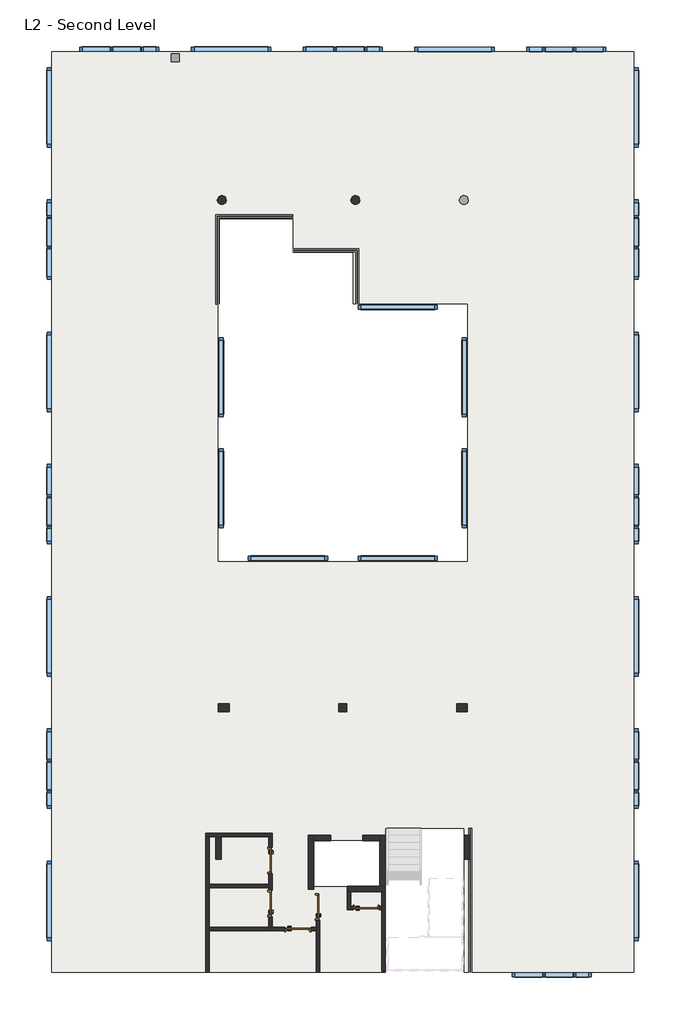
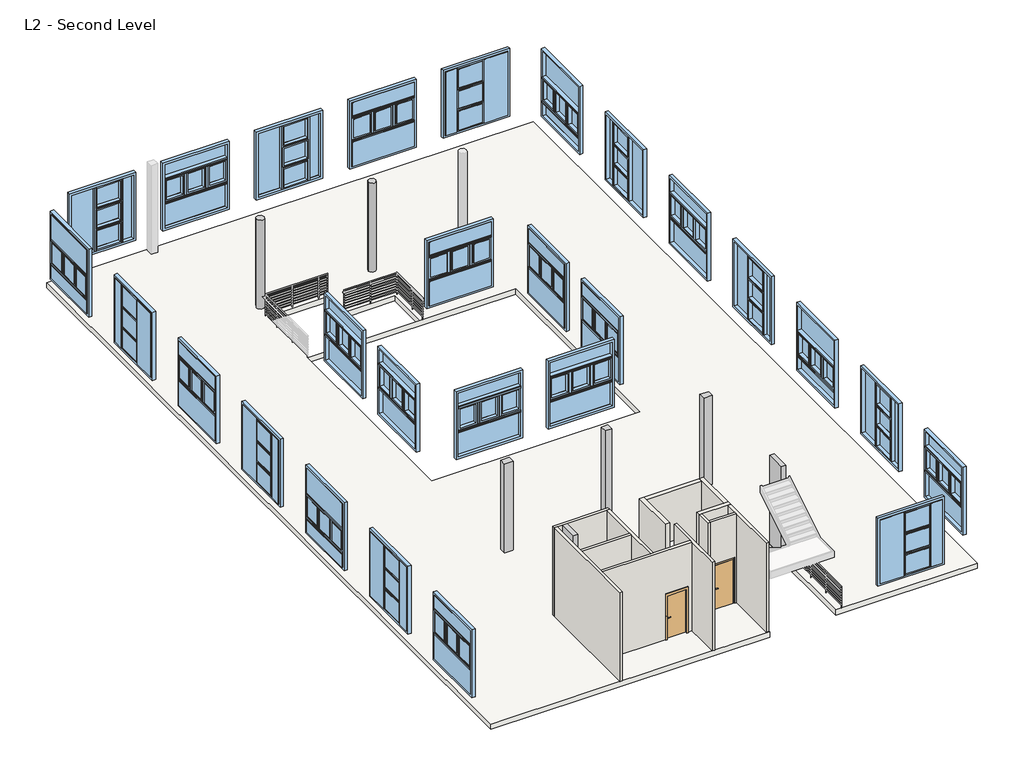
# One storey, part 1 of 3: 27 windows, 13 walls, 7 columns, 5 doors, 1 slab.
"""IFC4 building model written with IfcOpenShell, lengths in millimetres."""

from ifc_helpers import new_model, si_unit, point, frame, frame_2d, origin, place, context, project, spatial, polyline, circle_curve, trimmed, segment, composite_curve, outline, extrude, faceted_brep, transform, mapped, element, save
from components import door_4b82438d, door_733e7269, window_lateral_horizontal_lateral_windows_7aeb5992, window_lateral_horizontal_lateral_windows_836d6a86, window_lateral_horizontal_option2_lateral_windows_0b92641a, window_lateral_horizontal_option2_lateral_windows_3115a414, window_lateral_vertical_lateral_windows_fbe11301, window_lateral_vertical_lateral_windows_7704e6dc

model = new_model("IFC4")

# Units and contexts
model_context = context("Model", 3, world=origin())
ifc_project = project(units=[si_unit("LENGTHUNIT", "METRE", prefix="MILLI")], contexts=[model_context])

# Site, building, storey
site = spatial("IfcSite", under=ifc_project)
building = spatial("IfcBuilding", under=site)
storey = spatial("IfcBuildingStorey", under=building, Name="L2 - Second Level", Elevation=4470.4)

# Columns
placement = place(None, origin())
element("IfcColumn", 1, ObjectType="Concrete-Rectangular-Column : 12 x 12", at=placement, inside=storey, context=model_context, shape_type="SweptSolid", body=[
    extrude(outline(polyline([(14630.4, 10972.6001433), (14630.4, 10667.8001433), (14325.6, 10667.8001433), (14325.6, 10972.6001433), (14630.4, 10972.6001433)])), frame((0.0, 0.0, 4470.4), z_axis=(0.0, 0.0, 1.0), x_axis=(1.0, 0.0, 0.0)), (0.0, 0.0, 1.0), 4318.0),
])
element("IfcColumn", 2, ObjectType="Concrete-Rectangular-Column : 12 x 16", at=placement, inside=storey, context=model_context, shape_type="SweptSolid", body=[
    extrude(outline(polyline([(9702.5746315, 10972.8), (10108.9746315, 10972.8), (10108.9746315, 10668.0), (9702.5746315, 10668.0), (9702.5746315, 10972.8)])), frame((0.0, 0.0, 4470.4), z_axis=(0.0, 0.0, 1.0), x_axis=(1.0, 0.0, 0.0)), (0.0, 0.0, 1.0), 4318.0),
])
element("IfcColumn", 3, ObjectType="Concrete-Rectangular-Column : 12 x 16", at=placement, inside=storey, context=model_context, shape_type="SweptSolid", body=[
    extrude(outline(polyline([(18846.7999999, 10972.8), (19253.1999999, 10972.8), (19253.1999999, 10668.0), (18846.7999999, 10668.0), (18846.7999999, 10972.8)])), frame((0.0, 0.0, 4470.4), z_axis=(0.0, 0.0, 1.0), x_axis=(1.0, 0.0, 0.0)), (0.0, 0.0, 1.0), 4318.0),
])
element("IfcColumn", 4, ObjectType="Concrete-Rectangular-Column : 36 x 8", at=placement, inside=storey, context=model_context, shape_type="SweptSolid", body=[
    extrude(outline(polyline([(9601.1999999, 5919.4792863), (9804.3999999, 5919.4792863), (9804.3999999, 5005.0792863), (9601.1999999, 5005.0792863), (9601.1999999, 5919.4792863)])), frame((0.0, 0.0, 4470.4), z_axis=(0.0, 0.0, 1.0), x_axis=(1.0, 0.0, 0.0)), (0.0, 0.0, 1.0), 4318.0),
])
element("IfcColumn", 5, ObjectType="Concrete-Rectangular-Column : 36 x 8", at=placement, inside=storey, context=model_context, shape_type="SweptSolid", body=[
    extrude(outline(polyline([(19151.6060672, 5919.4792863), (19354.8060672, 5919.4792863), (19354.8060672, 5005.0792863), (19151.6060672, 5005.0792863), (19151.6060672, 5919.4792863)])), frame((0.0, 0.0, 4470.4), z_axis=(0.0, 0.0, 1.0), x_axis=(1.0, 0.0, 0.0)), (0.0, 0.0, 1.0), 4318.0),
])
element("IfcColumn", 6, ObjectType="Concrete-Round-Column : 14\"", at=placement, inside=storey, context=model_context, shape_type="SweptSolid", body=[
    extrude(outline(composite_curve([segment(trimmed(circle_curve(frame_2d((9829.8000173, 30324.5922166)), 177.8), [point((9652.0000173, 30324.5922166))], [point((10007.6000173, 30324.5922166))], False, "CARTESIAN"), True, "CONTINUOUS"), segment(trimmed(circle_curve(frame_2d((9829.8000173, 30324.5922166)), 177.8), [point((10007.6000173, 30324.5922166))], [point((9652.0000173, 30324.5922166))], False, "CARTESIAN"), True, "CONTINUOUS")], self_intersect=False)), frame((0.0, 0.0, 4470.4), z_axis=(0.0, 0.0, 1.0), x_axis=(1.0, 0.0, 0.0)), (0.0, 0.0, 1.0), 4318.0),
])
element("IfcColumn", 7, ObjectType="Concrete-Round-Column : 14\"", at=placement, inside=storey, context=model_context, shape_type="SweptSolid", body=[
    extrude(outline(composite_curve([segment(trimmed(circle_curve(frame_2d((14960.6000173, 30324.5922166)), 177.8), [point((14782.8000173, 30324.5922166))], [point((15138.4000173, 30324.5922166))], False, "CARTESIAN"), True, "CONTINUOUS"), segment(trimmed(circle_curve(frame_2d((14960.6000173, 30324.5922166)), 177.8), [point((15138.4000173, 30324.5922166))], [point((14782.8000173, 30324.5922166))], False, "CARTESIAN"), True, "CONTINUOUS")], self_intersect=False)), frame((0.0, 0.0, 4470.4), z_axis=(0.0, 0.0, 1.0), x_axis=(1.0, 0.0, 0.0)), (0.0, 0.0, 1.0), 4318.0),
])

# Doors
door_shape = door_4b82438d(model_context)
element("IfcDoor", 8, ObjectType="Door-Passage-Single-Flush : 36\" x 84\"", at=placement, inside=storey, context=model_context, shape_type="MappedRepresentation", body=[
    mapped(door_shape, transform((11690.3560672, 4953.0, 4470.4), x_axis=(0.0, -1.0, 0.0), y_axis=(1.0, 0.0, 0.0), z_axis=(0.0, 0.0, 1.0))),
])
element("IfcDoor", 9, ObjectType="Door-Passage-Single-Flush : 36\" x 84\"", at=placement, inside=storey, context=model_context, shape_type="MappedRepresentation", body=[
    mapped(door_shape, transform((12750.8060672, 2317.75, 4470.4), x_axis=(1.0, 0.0, 0.0), y_axis=(0.0, 1.0, 0.0), z_axis=(0.0, 0.0, 1.0))),
])
door_2_shape = door_733e7269(model_context)
element("IfcDoor", 10, ObjectType="Door-Passage-Single-Flush : 36\" x 84\"", at=placement, inside=storey, context=model_context, shape_type="MappedRepresentation", body=[
    mapped(door_2_shape, transform((11690.3560672, 3302.0, 4470.4), x_axis=(0.0, 1.0, 0.0), y_axis=(-1.0, 0.0, 0.0), z_axis=(0.0, 0.0, 1.0))),
])
element("IfcDoor", 11, ObjectType="Door-Passage-Single-Flush : 36\" x 84\"", at=placement, inside=storey, context=model_context, shape_type="MappedRepresentation", body=[
    mapped(door_2_shape, transform((13519.1560672, 3175.0, 4470.4), x_axis=(0.0, 1.0, 0.0), y_axis=(-1.0, 0.0, 0.0), z_axis=(0.0, 0.0, 1.0))),
])
element("IfcDoor", 12, ObjectType="Door-Passage-Single-Flush : 36\" x 84\"", at=placement, inside=storey, context=model_context, shape_type="MappedRepresentation", body=[
    mapped(door_2_shape, transform((15379.7060672, 3143.25, 4470.4), x_axis=(1.0, 0.0, 0.0), y_axis=(0.0, 1.0, 0.0), z_axis=(0.0, 0.0, 1.0))),
])

# Slab
element("IfcSlab", 13, ObjectType="Concrete 10\"", at=placement, inside=storey, context=model_context, shape_type="Brep", body=[
    faceted_brep([(3302.0, 36017.1999999, 4216.4), (25654.0, 36017.1999999, 4216.4), (25654.0, 660.4, 4216.4), (19151.6060672, 660.4, 4216.4), (19151.6060672, 6197.6, 4216.4), (16103.6060672, 6197.6, 4216.4), (16103.6060672, 660.4, 4216.4), (3302.0, 660.4, 4216.4), (19253.2, 26314.3998757, 4216.4), (9702.8000088, 26314.3998757, 4216.4), (9702.8000088, 16459.1998844, 4216.4), (19253.2, 16459.1998844, 4216.4), (15900.4060672, 5715.0, 4216.4), (13258.8060672, 5715.0, 4216.4), (13258.8060672, 3962.4, 4216.4), (15900.4060672, 3962.4, 4216.4), (12547.6000088, 29578.2998803, 4216.4), (9753.6000088, 29578.2998803, 4216.4), (9753.6000088, 26314.3998815, 4216.4), (14852.6500296, 26314.3998815, 4216.4), (14852.6500296, 28308.2998803, 4216.4), (12547.6000088, 28308.2998803, 4216.4), (3302.0, 36017.1999999, 4470.4), (3302.0, 660.4, 4470.4), (16103.6060672, 660.4, 4470.4), (16103.6060672, 6197.6, 4470.4), (19151.6060672, 6197.6, 4470.4), (19151.6060672, 5919.4792863, 4470.4), (19151.6060672, 5005.0792863, 4470.4), (19151.6060672, 660.4, 4470.4), (25654.0, 660.4, 4470.4), (25654.0, 36017.1999999, 4470.4), (19253.2, 26314.3998757, 4470.4), (19253.2, 16459.1998844, 4470.4), (9702.8000088, 16459.1998844, 4470.4), (9702.8000088, 26314.3998757, 4470.4), (15900.4060672, 5715.0, 4470.4), (15900.4060672, 3962.4, 4470.4), (13258.8060672, 3962.4, 4470.4), (13258.8060672, 5715.0, 4470.4), (12547.6000088, 29578.2998803, 4470.4), (12547.6000088, 28308.2998803, 4470.4), (14852.6500296, 28308.2998803, 4470.4), (14852.6500296, 26314.3998815, 4470.4), (9753.6000088, 26314.3998815, 4470.4), (9753.6000088, 29578.2998803, 4470.4)], [[[0, 1, 2, 3, 4, 5, 6, 7], [8, 9, 10, 11], [12, 13, 14, 15], [16, 17, 18, 19, 20, 21]], [[22, 23, 24, 25, 26, 27, 28, 29, 30, 31], [32, 33, 34, 35], [36, 37, 38, 39], [40, 41, 42, 43, 44, 45]], [[1, 0, 22, 31]], [[2, 1, 31, 30]], [[7, 6, 24, 23]], [[0, 7, 23, 22]], [[3, 2, 30, 29]], [[4, 3, 29, 28, 27, 26]], [[5, 4, 26, 25]], [[6, 5, 25, 24]], [[9, 8, 32, 35]], [[10, 9, 35, 34]], [[11, 10, 34, 33]], [[8, 11, 33, 32]], [[13, 12, 36, 39]], [[14, 13, 39, 38]], [[15, 14, 38, 37]], [[12, 15, 37, 36]], [[17, 16, 40, 45]], [[18, 17, 45, 44]], [[19, 18, 44, 43]], [[20, 19, 43, 42]], [[21, 20, 42, 41]], [[16, 21, 41, 40]]]),
])

# Walls
element("IfcWall", 14, ObjectType="Project Wall", at=placement, inside=storey, context=model_context, shape_type="Brep", body=[
    faceted_brep([(13157.2060672, 5918.2, 4470.4), (13157.2060672, 3860.8, 4470.4), (13157.2060672, 3860.8, 8788.4), (13157.2060672, 5918.2, 8788.4), (13360.4060672, 5918.2, 4470.4), (13360.4060672, 5918.2, 8788.4), (13360.4060672, 5715.0, 8788.4), (13360.4060672, 3860.8, 8788.4), (13360.4060672, 3860.8, 4470.4), (13360.4060672, 5715.0, 4470.4)], [[[0, 1, 2, 3]], [[4, 5, 6, 7, 8, 9]], [[1, 0, 4, 9, 8]], [[2, 1, 8, 7]], [[3, 2, 7, 6, 5]], [[0, 3, 5, 4]]]),
])
element("IfcWall", 15, ObjectType="Project Wall", at=placement, inside=storey, context=model_context, shape_type="Brep", body=[
    faceted_brep([(14655.8060672, 3759.2, 4470.4), (14782.8060672, 3759.2, 4470.4), (15976.6060672, 3759.2, 4470.4), (16103.6060672, 3759.2, 4470.4), (16103.6060672, 3759.2, 8788.4), (15976.6060672, 3759.2, 8788.4), (14782.8060672, 3759.2, 8788.4), (14655.8060672, 3759.2, 8788.4), (14655.8060672, 3962.4, 4470.4), (14655.8060672, 3962.4, 8788.4), (15900.4060672, 3962.4, 8788.4), (16103.6060672, 3962.4, 8788.4), (16103.6060672, 3962.4, 4470.4), (15900.4060672, 3962.4, 4470.4)], [[[0, 1, 2, 3, 4, 5, 6, 7]], [[8, 9, 10, 11, 12, 13]], [[3, 2, 1, 0, 8, 13, 12]], [[7, 6, 5, 4, 11, 10, 9]], [[4, 3, 12, 11]], [[0, 7, 9, 8]]]),
])
element("IfcWall", 16, ObjectType="Project Wall", at=placement, inside=storey, context=model_context, shape_type="Brep", body=[
    faceted_brep([(16103.6060672, 3962.4, 4470.4), (16103.6060672, 5918.2, 4470.4), (16103.6060672, 5918.2, 8788.4), (16103.6060672, 3962.4, 8788.4), (15900.4060672, 3962.4, 4470.4), (15900.4060672, 3962.4, 8788.4), (15900.4060672, 5715.0, 8788.4), (15900.4060672, 5918.2, 8788.4), (15900.4060672, 5918.2, 4470.4), (15900.4060672, 5715.0, 4470.4)], [[[0, 1, 2, 3]], [[4, 5, 6, 7, 8, 9]], [[1, 0, 4, 9, 8]], [[3, 2, 7, 6, 5]], [[0, 3, 5, 4]], [[2, 1, 8, 7]]]),
])
element("IfcWall", 17, ObjectType="Project Wall", at=placement, inside=storey, context=model_context, shape_type="SweptSolid", body=[
    extrude(outline(polyline([(8788.4, 15900.4060672), (8788.4, 13360.4060672), (4470.4, 13360.4060672), (4470.4, 14014.4560672), (6375.4, 14014.4560672), (6375.4, 15246.3560672), (4470.4, 15246.3560672), (4470.4, 15900.4060672), (8788.4, 15900.4060672)])), frame((0.0, 5715.0, 0.0), z_axis=(0.0, 1.0, 0.0), x_axis=(0.0, 0.0, 1.0)), (0.0, 0.0, 1.0), 203.2),
])
element("IfcWall", 18, ObjectType="Project Wall 5\"", at=placement, inside=storey, context=model_context, shape_type="Brep", body=[
    faceted_brep([(11760.2060672, 5994.4, 4470.4), (9220.2060672, 5994.4, 4470.4), (9220.2060672, 5994.4, 8788.4), (11760.2060672, 5994.4, 8788.4), (11760.2060672, 5867.4, 4470.4), (11760.2060672, 5867.4, 8788.4), (11633.2060672, 5867.4, 8788.4), (9347.2060672, 5867.4, 8788.4), (9220.2060672, 5867.4, 8788.4), (9220.2060672, 5867.4, 4470.4), (9347.2060672, 5867.4, 4470.4), (11633.2060672, 5867.4, 4470.4)], [[[0, 1, 2, 3]], [[4, 5, 6, 7, 8, 9, 10, 11]], [[1, 0, 4, 11, 10, 9]], [[3, 2, 8, 7, 6, 5]], [[2, 1, 9, 8]], [[0, 3, 5, 4]]]),
])
element("IfcWall", 19, ObjectType="Project Wall 5\"", at=placement, inside=storey, context=model_context, shape_type="Brep", body=[
    faceted_brep([(9220.2060672, 5867.4, 4470.4), (9220.2060672, 660.4, 4470.4), (9220.2060672, 660.4, 8788.4), (9220.2060672, 5867.4, 8788.4), (9347.2060672, 5867.4, 4470.4), (9347.2060672, 5867.4, 8788.4), (9347.2060672, 4038.6, 8788.4), (9347.2060672, 3911.6, 8788.4), (9347.2060672, 2387.6, 8788.4), (9347.2060672, 2260.6, 8788.4), (9347.2060672, 660.4, 8788.4), (9347.2060672, 660.4, 4470.4), (9347.2060672, 2260.6, 4470.4), (9347.2060672, 2387.6, 4470.4), (9347.2060672, 3911.6, 4470.4), (9347.2060672, 4038.6, 4470.4)], [[[0, 1, 2, 3]], [[4, 5, 6, 7, 8, 9, 10, 11, 12, 13, 14, 15]], [[1, 0, 4, 15, 14, 13, 12, 11]], [[3, 2, 10, 9, 8, 7, 6, 5]], [[0, 3, 5, 4]], [[2, 1, 11, 10]]]),
])
element("IfcWall", 20, ObjectType="Project Wall 5\"", at=placement, inside=storey, context=model_context, shape_type="Brep", body=[
    faceted_brep([(11633.2060672, 2387.6, 8788.4), (11633.2060672, 3911.6, 8788.4), (11633.2060672, 4038.6, 8788.4), (11633.2060672, 5867.4, 8788.4), (11633.2060672, 5867.4, 4470.4), (11633.2060672, 5461.0, 4470.4), (11633.2060672, 5461.0, 6705.6), (11633.2060672, 4445.0, 6705.6), (11633.2060672, 4445.0, 4470.4), (11633.2060672, 4038.6, 4470.4), (11633.2060672, 3911.6, 4470.4), (11633.2060672, 3810.0, 4470.4), (11633.2060672, 3810.0, 6705.6), (11633.2060672, 2794.0, 6705.6), (11633.2060672, 2794.0, 4470.4), (11633.2060672, 2387.6, 4470.4), (11760.2060672, 5867.4, 8788.4), (11760.2060672, 2387.6, 8788.4), (11760.2060672, 2387.6, 4470.4), (11760.2060672, 2794.0, 4470.4), (11760.2060672, 2794.0, 6705.6), (11760.2060672, 3810.0, 6705.6), (11760.2060672, 3810.0, 4470.4), (11760.2060672, 4445.0, 4470.4), (11760.2060672, 4445.0, 6705.6), (11760.2060672, 5461.0, 6705.6), (11760.2060672, 5461.0, 4470.4), (11760.2060672, 5867.4, 4470.4)], [[[0, 1, 2, 3, 4, 5, 6, 7, 8, 9, 10, 11, 12, 13, 14, 15]], [[16, 17, 18, 19, 20, 21, 22, 23, 24, 25, 26, 27]], [[4, 27, 26, 5]], [[18, 15, 14, 19]], [[8, 23, 22, 11, 10, 9]], [[3, 2, 1, 0, 17, 16]], [[4, 3, 16, 27]], [[0, 15, 18, 17]], [[7, 24, 23, 8]], [[24, 7, 6, 25]], [[25, 6, 5, 26]], [[21, 12, 11, 22]], [[12, 21, 20, 13]], [[13, 20, 19, 14]]]),
])
element("IfcWall", 21, ObjectType="Project Wall 5\"", at=placement, inside=storey, context=model_context, shape_type="Brep", body=[
    faceted_brep([(13462.0060672, 660.4, 8788.4), (13462.0060672, 2260.6, 8788.4), (13462.0060672, 2387.6, 8788.4), (13462.0060672, 3683.0, 8788.4), (13462.0060672, 3683.0, 6705.6), (13462.0060672, 2667.0, 6705.6), (13462.0060672, 2667.0, 4470.4), (13462.0060672, 2387.6, 4470.4), (13462.0060672, 2260.6, 4470.4), (13462.0060672, 660.4, 4470.4), (13589.0060672, 3683.0, 8788.4), (13589.0060672, 660.4, 8788.4), (13589.0060672, 660.4, 4470.4), (13589.0060672, 2667.0, 4470.4), (13589.0060672, 2667.0, 6705.6), (13589.0060672, 3683.0, 6705.6)], [[[0, 1, 2, 3, 4, 5, 6, 7, 8, 9]], [[10, 11, 12, 13, 14, 15]], [[12, 9, 8, 7, 6, 13]], [[3, 2, 1, 0, 11, 10]], [[3, 10, 15, 4]], [[14, 5, 4, 15]], [[5, 14, 13, 6]], [[0, 9, 12, 11]]]),
])
element("IfcWall", 22, ObjectType="Project Wall 5\"", at=placement, inside=storey, context=model_context, shape_type="Brep", body=[
    faceted_brep([(9347.2060672, 2387.6, 8788.4), (11633.2060672, 2387.6, 8788.4), (11760.2060672, 2387.6, 8788.4), (13462.0060672, 2387.6, 8788.4), (13462.0060672, 2387.6, 4470.4), (13258.8060672, 2387.6, 4470.4), (13258.8060672, 2387.6, 6705.6), (12242.8060672, 2387.6, 6705.6), (12242.8060672, 2387.6, 4470.4), (11760.2060672, 2387.6, 4470.4), (11633.2060672, 2387.6, 4470.4), (9347.2060672, 2387.6, 4470.4), (13462.0060672, 2260.6, 8788.4), (9347.2060672, 2260.6, 8788.4), (9347.2060672, 2260.6, 4470.4), (12242.8060672, 2260.6, 4470.4), (12242.8060672, 2260.6, 6705.6), (13258.8060672, 2260.6, 6705.6), (13258.8060672, 2260.6, 4470.4), (13462.0060672, 2260.6, 4470.4)], [[[0, 1, 2, 3, 4, 5, 6, 7, 8, 9, 10, 11]], [[12, 13, 14, 15, 16, 17, 18, 19]], [[4, 19, 18, 5]], [[14, 11, 10, 9, 8, 15]], [[3, 2, 1, 0, 13, 12]], [[0, 11, 14, 13]], [[4, 3, 12, 19]], [[17, 6, 5, 18]], [[6, 17, 16, 7]], [[7, 16, 15, 8]]]),
])
element("IfcWall", 23, ObjectType="Project Wall 5\"", at=placement, inside=storey, context=model_context, shape_type="SweptSolid", body=[
    extrude(outline(polyline([(9347.2060672, 4038.6), (11633.2060672, 4038.6), (11633.2060672, 3911.6), (9347.2060672, 3911.6), (9347.2060672, 4038.6)])), frame((0.0, 0.0, 4470.4), z_axis=(0.0, 0.0, 1.0), x_axis=(1.0, 0.0, 0.0)), (0.0, 0.0, 1.0), 4318.0),
])
element("IfcWall", 24, ObjectType="Project Wall 5\"", at=placement, inside=storey, context=model_context, shape_type="Brep", body=[
    faceted_brep([(14655.8060672, 3759.2, 4470.4), (14655.8060672, 3073.4, 4470.4), (14655.8060672, 3073.4, 8788.4), (14655.8060672, 3759.2, 8788.4), (14782.8060672, 3759.2, 4470.4), (14782.8060672, 3759.2, 8788.4), (14782.8060672, 3200.4, 8788.4), (14782.8060672, 3073.4, 8788.4), (14782.8060672, 3073.4, 4470.4), (14782.8060672, 3200.4, 4470.4)], [[[0, 1, 2, 3]], [[4, 5, 6, 7, 8, 9]], [[1, 0, 4, 9, 8]], [[3, 2, 7, 6, 5]], [[0, 3, 5, 4]], [[2, 1, 8, 7]]]),
])
element("IfcWall", 25, ObjectType="Project Wall 5\"", at=placement, inside=storey, context=model_context, shape_type="Brep", body=[
    faceted_brep([(15976.6060672, 3759.2, 4470.4), (15976.6060672, 3200.4, 4470.4), (15976.6060672, 3073.4, 4470.4), (15976.6060672, 711.2, 4470.4), (15976.6060672, 711.2, 8788.4), (15976.6060672, 3073.4, 8788.4), (15976.6060672, 3200.4, 8788.4), (15976.6060672, 3759.2, 8788.4), (16103.6060672, 3759.2, 4470.4), (16103.6060672, 3759.2, 8788.4), (16103.6060672, 711.2, 8788.4), (16103.6060672, 711.2, 4470.4)], [[[0, 1, 2, 3, 4, 5, 6, 7]], [[8, 9, 10, 11]], [[3, 2, 1, 0, 8, 11]], [[4, 3, 11, 10]], [[7, 6, 5, 4, 10, 9]], [[0, 7, 9, 8]]]),
])
element("IfcWall", 26, ObjectType="Project Wall 5\"", at=placement, inside=storey, context=model_context, shape_type="SweptSolid", body=[
    extrude(outline(polyline([(8788.4, 15976.6060672), (8788.4, 14782.8060672), (4470.4, 14782.8060672), (4470.4, 14871.7060672), (6705.6, 14871.7060672), (6705.6, 15887.7060672), (4470.4, 15887.7060672), (4470.4, 15976.6060672), (8788.4, 15976.6060672)])), frame((0.0, 3073.4, 0.0), z_axis=(0.0, 1.0, 0.0), x_axis=(0.0, 0.0, 1.0)), (0.0, 0.0, 1.0), 127.0),
])

# Windows
window_lateral_horizontal_lateral_windows_shape = window_lateral_horizontal_lateral_windows_7aeb5992(model_context)
element("IfcWindow", 27, ObjectType="Window_Lateral_Horizontal : Lateral Windows", at=placement, inside=storey, context=model_context, shape_type="MappedRepresentation", body=[
    mapped(window_lateral_horizontal_lateral_windows_shape, transform((3200.4, 23723.6, 4165.6), x_axis=(0.0, -1.0, 0.0), y_axis=(1.0, 0.0, 0.0), z_axis=(0.0, 0.0, 1.0))),
])
element("IfcWindow", 28, ObjectType="Window_Lateral_Horizontal : Lateral Windows", at=placement, inside=storey, context=model_context, shape_type="MappedRepresentation", body=[
    mapped(window_lateral_horizontal_lateral_windows_shape, transform((3200.4, 3403.6, 4165.6), x_axis=(0.0, -1.0, 0.0), y_axis=(1.0, 0.0, 0.0), z_axis=(0.0, 0.0, 1.0))),
])
window_lateral_horizontal_lateral_windows_2_shape = window_lateral_horizontal_lateral_windows_836d6a86(model_context)
element("IfcWindow", 29, ObjectType="Window_Lateral_Horizontal : Lateral Windows", at=placement, inside=storey, context=model_context, shape_type="MappedRepresentation", body=[
    mapped(window_lateral_horizontal_lateral_windows_2_shape, transform((18770.6, 36118.7999999, 4165.6), x_axis=(-1.0, 0.0, 0.0), y_axis=(0.0, -1.0, 0.0), z_axis=(0.0, 0.0, 1.0))),
])
element("IfcWindow", 30, ObjectType="Window_Lateral_Horizontal : Lateral Windows", at=placement, inside=storey, context=model_context, shape_type="MappedRepresentation", body=[
    mapped(window_lateral_horizontal_lateral_windows_2_shape, transform((10185.4, 36118.8, 4165.6), x_axis=(1.0, 0.0, 0.0), y_axis=(0.0, 1.0, 0.0), z_axis=(0.0, 0.0, 1.0))),
])
element("IfcWindow", 31, ObjectType="Window_Lateral_Horizontal : Lateral Windows", at=placement, inside=storey, context=model_context, shape_type="MappedRepresentation", body=[
    mapped(window_lateral_horizontal_lateral_windows_2_shape, transform((25755.6, 3403.6, 4165.6), x_axis=(0.0, -1.0, 0.0), y_axis=(1.0, 0.0, 0.0), z_axis=(0.0, 0.0, 1.0))),
])
element("IfcWindow", 32, ObjectType="Window_Lateral_Horizontal : Lateral Windows", at=placement, inside=storey, context=model_context, shape_type="MappedRepresentation", body=[
    mapped(window_lateral_horizontal_lateral_windows_2_shape, transform((25755.6, 23723.6, 4165.6), x_axis=(0.0, -1.0, 0.0), y_axis=(1.0, 0.0, 0.0), z_axis=(0.0, 0.0, 1.0))),
])
element("IfcWindow", 33, ObjectType="Window_Lateral_Horizontal : Lateral Windows", at=placement, inside=storey, context=model_context, shape_type="MappedRepresentation", body=[
    mapped(window_lateral_horizontal_lateral_windows_2_shape, transform((16586.2, 26212.7998757, 4165.6), x_axis=(-1.0, 0.0, 0.0), y_axis=(0.0, -1.0, 0.0), z_axis=(0.0, 0.0, 1.0))),
])
element("IfcWindow", 34, ObjectType="Window_Lateral_Horizontal : Lateral Windows", at=placement, inside=storey, context=model_context, shape_type="MappedRepresentation", body=[
    mapped(window_lateral_horizontal_lateral_windows_2_shape, transform((19151.6, 23520.3998757, 4165.6), x_axis=(0.0, 1.0, 0.0), y_axis=(-1.0, 0.0, 0.0), z_axis=(0.0, 0.0, 1.0))),
])
element("IfcWindow", 35, ObjectType="Window_Lateral_Horizontal : Lateral Windows", at=placement, inside=storey, context=model_context, shape_type="MappedRepresentation", body=[
    mapped(window_lateral_horizontal_lateral_windows_2_shape, transform((19151.6, 19253.1998844, 4165.6), x_axis=(0.0, 1.0, 0.0), y_axis=(-1.0, 0.0, 0.0), z_axis=(0.0, 0.0, 1.0))),
])
element("IfcWindow", 36, ObjectType="Window_Lateral_Horizontal : Lateral Windows", at=placement, inside=storey, context=model_context, shape_type="MappedRepresentation", body=[
    mapped(window_lateral_horizontal_lateral_windows_2_shape, transform((16586.2, 16560.7998844, 4165.6), x_axis=(1.0, 0.0, 0.0), y_axis=(0.0, 1.0, 0.0), z_axis=(0.0, 0.0, 1.0))),
])
element("IfcWindow", 37, ObjectType="Window_Lateral_Horizontal : Lateral Windows", at=placement, inside=storey, context=model_context, shape_type="MappedRepresentation", body=[
    mapped(window_lateral_horizontal_lateral_windows_2_shape, transform((12369.8000088, 16560.7998844, 4165.6), x_axis=(1.0, 0.0, 0.0), y_axis=(0.0, 1.0, 0.0), z_axis=(0.0, 0.0, 1.0))),
])
element("IfcWindow", 38, ObjectType="Window_Lateral_Horizontal : Lateral Windows", at=placement, inside=storey, context=model_context, shape_type="MappedRepresentation", body=[
    mapped(window_lateral_horizontal_lateral_windows_2_shape, transform((9804.4000088, 19253.1998844, 4165.6), x_axis=(0.0, -1.0, 0.0), y_axis=(1.0, 0.0, 0.0), z_axis=(0.0, 0.0, 1.0))),
])
element("IfcWindow", 39, ObjectType="Window_Lateral_Horizontal : Lateral Windows", at=placement, inside=storey, context=model_context, shape_type="MappedRepresentation", body=[
    mapped(window_lateral_horizontal_lateral_windows_2_shape, transform((9804.4000088, 23520.3998757, 4165.6), x_axis=(0.0, -1.0, 0.0), y_axis=(1.0, 0.0, 0.0), z_axis=(0.0, 0.0, 1.0))),
])
window_lateral_horizontal_option2_lateral_windows_shape = window_lateral_horizontal_option2_lateral_windows_0b92641a(model_context)
element("IfcWindow", 40, ObjectType="Window_Lateral_Horizontal_Option2 : Lateral Windows", at=placement, inside=storey, context=model_context, shape_type="MappedRepresentation", body=[
    mapped(window_lateral_horizontal_option2_lateral_windows_shape, transform((25755.6, 13563.6, 4165.6), x_axis=(0.0, -1.0, 0.0), y_axis=(1.0, 0.0, 0.0), z_axis=(0.0, 0.0, 1.0))),
])
element("IfcWindow", 41, ObjectType="Window_Lateral_Horizontal_Option2 : Lateral Windows", at=placement, inside=storey, context=model_context, shape_type="MappedRepresentation", body=[
    mapped(window_lateral_horizontal_option2_lateral_windows_shape, transform((25755.6, 33883.5999999, 4165.6), x_axis=(0.0, -1.0, 0.0), y_axis=(1.0, 0.0, 0.0), z_axis=(0.0, 0.0, 1.0))),
])
window_lateral_horizontal_option2_lateral_windows_2_shape = window_lateral_horizontal_option2_lateral_windows_3115a414(model_context)
element("IfcWindow", 42, ObjectType="Window_Lateral_Horizontal_Option2 : Lateral Windows", at=placement, inside=storey, context=model_context, shape_type="MappedRepresentation", body=[
    mapped(window_lateral_horizontal_option2_lateral_windows_2_shape, transform((3200.4, 33883.6, 4165.6), x_axis=(0.0, -1.0, 0.0), y_axis=(1.0, 0.0, 0.0), z_axis=(0.0, 0.0, 1.0))),
])
element("IfcWindow", 43, ObjectType="Window_Lateral_Horizontal_Option2 : Lateral Windows", at=placement, inside=storey, context=model_context, shape_type="MappedRepresentation", body=[
    mapped(window_lateral_horizontal_option2_lateral_windows_2_shape, transform((3200.4, 13563.6, 4165.6), x_axis=(0.0, -1.0, 0.0), y_axis=(1.0, 0.0, 0.0), z_axis=(0.0, 0.0, 1.0))),
])
window_lateral_vertical_lateral_windows_shape = window_lateral_vertical_lateral_windows_fbe11301(model_context)
element("IfcWindow", 44, ObjectType="Window_Lateral_Vertical : Lateral Windows", at=placement, inside=storey, context=model_context, shape_type="MappedRepresentation", body=[
    mapped(window_lateral_vertical_lateral_windows_shape, transform((3200.4, 18643.6, 4165.6), x_axis=(0.0, -1.0, 0.0), y_axis=(1.0, 0.0, 0.0), z_axis=(0.0, 0.0, 1.0))),
])
element("IfcWindow", 45, ObjectType="Window_Lateral_Vertical : Lateral Windows", at=placement, inside=storey, context=model_context, shape_type="MappedRepresentation", body=[
    mapped(window_lateral_vertical_lateral_windows_shape, transform((3200.4, 8483.6, 4165.6), x_axis=(0.0, -1.0, 0.0), y_axis=(1.0, 0.0, 0.0), z_axis=(0.0, 0.0, 1.0))),
])
element("IfcWindow", 46, ObjectType="Window_Lateral_Vertical : Lateral Windows", at=placement, inside=storey, context=model_context, shape_type="MappedRepresentation", body=[
    mapped(window_lateral_vertical_lateral_windows_shape, transform((25755.6, 28803.6, 4165.6), x_axis=(0.0, 1.0, 0.0), y_axis=(-1.0, 0.0, 0.0), z_axis=(0.0, 0.0, 1.0))),
])
element("IfcWindow", 47, ObjectType="Window_Lateral_Vertical : Lateral Windows", at=placement, inside=storey, context=model_context, shape_type="MappedRepresentation", body=[
    mapped(window_lateral_vertical_lateral_windows_shape, transform((22504.4, 558.8, 4165.6), x_axis=(1.0, 0.0, 0.0), y_axis=(0.0, 1.0, 0.0), z_axis=(0.0, 0.0, 1.0))),
])
window_lateral_vertical_lateral_windows_2_shape = window_lateral_vertical_lateral_windows_7704e6dc(model_context)
element("IfcWindow", 48, ObjectType="Window_Lateral_Vertical : Lateral Windows", at=placement, inside=storey, context=model_context, shape_type="MappedRepresentation", body=[
    mapped(window_lateral_vertical_lateral_windows_2_shape, transform((23063.2, 36118.7999999, 4165.6), x_axis=(-1.0, 0.0, 0.0), y_axis=(0.0, -1.0, 0.0), z_axis=(0.0, 0.0, 1.0))),
])
element("IfcWindow", 49, ObjectType="Window_Lateral_Vertical : Lateral Windows", at=placement, inside=storey, context=model_context, shape_type="MappedRepresentation", body=[
    mapped(window_lateral_vertical_lateral_windows_2_shape, transform((14478.0, 36118.8, 4165.6), x_axis=(1.0, 0.0, 0.0), y_axis=(0.0, 1.0, 0.0), z_axis=(0.0, 0.0, 1.0))),
])
element("IfcWindow", 50, ObjectType="Window_Lateral_Vertical : Lateral Windows", at=placement, inside=storey, context=model_context, shape_type="MappedRepresentation", body=[
    mapped(window_lateral_vertical_lateral_windows_2_shape, transform((5892.8, 36118.8, 4165.6), x_axis=(1.0, 0.0, 0.0), y_axis=(0.0, 1.0, 0.0), z_axis=(0.0, 0.0, 1.0))),
])
element("IfcWindow", 51, ObjectType="Window_Lateral_Vertical : Lateral Windows", at=placement, inside=storey, context=model_context, shape_type="MappedRepresentation", body=[
    mapped(window_lateral_vertical_lateral_windows_2_shape, transform((25755.6, 8483.6, 4165.6), x_axis=(0.0, -1.0, 0.0), y_axis=(1.0, 0.0, 0.0), z_axis=(0.0, 0.0, 1.0))),
])
element("IfcWindow", 52, ObjectType="Window_Lateral_Vertical : Lateral Windows", at=placement, inside=storey, context=model_context, shape_type="MappedRepresentation", body=[
    mapped(window_lateral_vertical_lateral_windows_2_shape, transform((25755.6, 18643.6, 4165.6), x_axis=(0.0, -1.0, 0.0), y_axis=(1.0, 0.0, 0.0), z_axis=(0.0, 0.0, 1.0))),
])
element("IfcWindow", 53, ObjectType="Window_Lateral_Vertical : Lateral Windows", at=placement, inside=storey, context=model_context, shape_type="MappedRepresentation", body=[
    mapped(window_lateral_vertical_lateral_windows_2_shape, transform((3200.4, 28803.6, 4165.6), x_axis=(0.0, 1.0, 0.0), y_axis=(-1.0, 0.0, 0.0), z_axis=(0.0, 0.0, 1.0))),
])

save(model, "model.ifc")
